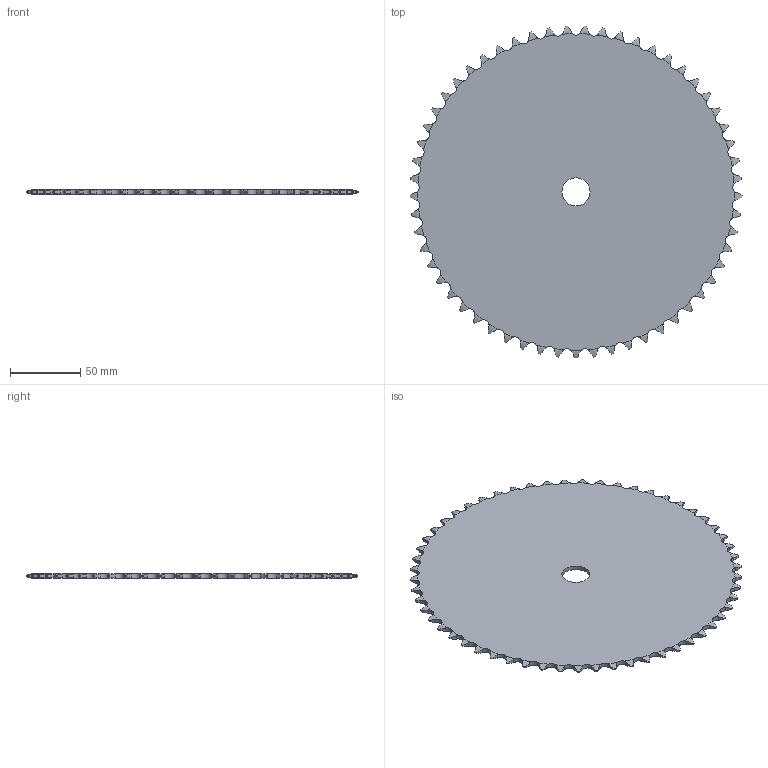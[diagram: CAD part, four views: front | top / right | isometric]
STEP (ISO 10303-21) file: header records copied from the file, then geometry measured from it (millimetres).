
FILE_DESCRIPTION((''),'2;1');
FILE_NAME('500-201-0057_PRT','2021-02-12T',('Brieden'),('Brieden'),'PRO/ENGINEER BY PARAMETRIC TECHNOLOGY CORPORATION, 2010160','PRO/ENGINEER BY PARAMETRIC TECHNOLOGY CORPORATION, 2010160','');
FILE_SCHEMA(('AUTOMOTIVE_DESIGN { 1 0 10303 214 1 1 1 1 }'));
Length unit declared in the file: millimetre
Products named in the file (1): 500-201-0057_PRT
Bounding box: 235.8 x 235.71 x 3 mm (x, y, z)
Volume: 120669.2 mm3; surface area: 83784.6 mm2
Topology: 1 solids, 1 shells, 346 faces, 1032 edges, 688 vertices
Faces by surface type: cylinder 230, torus 114, plane 2
Entity records: 16937 total; most frequent: CARTESIAN_POINT 5026, ORIENTED_EDGE 2064, DIRECTION 1614, PRESENTATION_STYLE_ASSIGNMENT 1033, STYLED_ITEM 1033, CURVE_STYLE 1032, EDGE_CURVE 1032, AXIS2_PLACEMENT_3D 692
